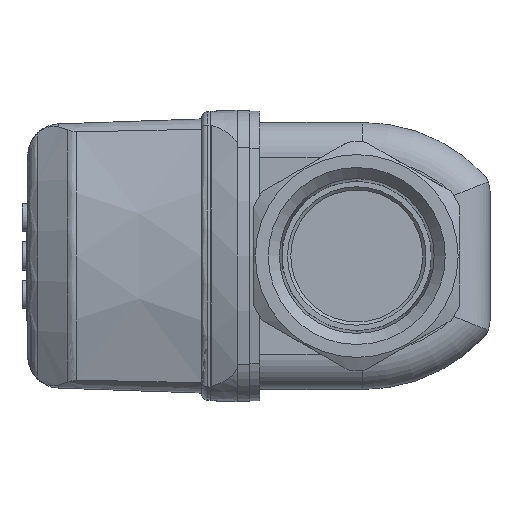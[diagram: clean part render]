
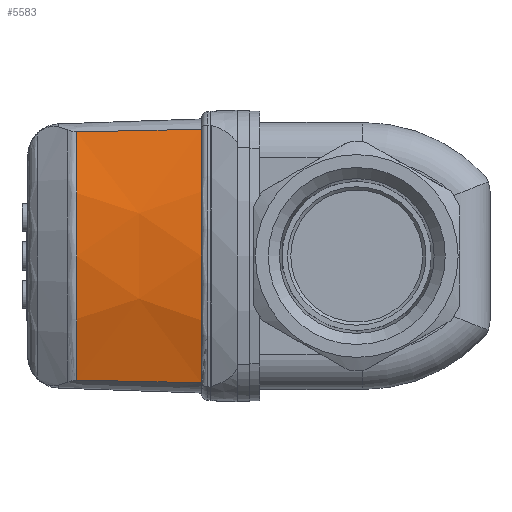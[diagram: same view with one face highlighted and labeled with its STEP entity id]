
A CAD part, left-side view. The second image highlights one B-rep face of the part: STEP entity #5583.
In plain terms, the highlighted conical face has half-angle 2 degrees and reference radius 57.721 mm.
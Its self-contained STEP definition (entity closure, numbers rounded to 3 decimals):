
#38=CONICAL_SURFACE('',#5928,57.721,0.035);
#711=B_SPLINE_CURVE_WITH_KNOTS('',3,(#8183,#8184,#8185,#8186),
 .UNSPECIFIED.,.F.,.F.,(4,4),(0.002,0.021),
 .UNSPECIFIED.);
#712=B_SPLINE_CURVE_WITH_KNOTS('',3,(#8187,#8188,#8189,#8190),
 .UNSPECIFIED.,.F.,.F.,(4,4),(0.002,0.021),
 .UNSPECIFIED.);
#989=ORIENTED_EDGE('',*,*,#2052,.F.);
#990=ORIENTED_EDGE('',*,*,#2053,.T.);
#991=ORIENTED_EDGE('',*,*,#1865,.T.);
#992=ORIENTED_EDGE('',*,*,#2054,.T.);
#1865=EDGE_CURVE('',#2415,#2414,#2787,.T.);
#2052=EDGE_CURVE('',#2567,#2568,#2864,.T.);
#2053=EDGE_CURVE('',#2567,#2415,#711,.T.);
#2054=EDGE_CURVE('',#2414,#2568,#712,.T.);
#2414=VERTEX_POINT('',#7605);
#2415=VERTEX_POINT('',#7607);
#2567=VERTEX_POINT('',#8181);
#2568=VERTEX_POINT('',#8182);
#2787=CIRCLE('',#5818,57.721);
#2864=CIRCLE('',#5929,57.045);
#3084=EDGE_LOOP('',(#989,#990,#991,#992));
#3426=FACE_BOUND('',#3084,.T.);
#5583=ADVANCED_FACE('',(#3426),#38,.T.);
#5818=AXIS2_PLACEMENT_3D('',#7606,#6350,#6351);
#5928=AXIS2_PLACEMENT_3D('',#8179,#6636,#6637);
#5929=AXIS2_PLACEMENT_3D('',#8180,#6638,#6639);
#6350=DIRECTION('',(0.,1.,0.));
#6351=DIRECTION('',(0.,0.,1.));
#6636=DIRECTION('',(0.,-1.,0.));
#6637=DIRECTION('',(0.,0.,-1.));
#6638=DIRECTION('',(0.,1.,0.));
#6639=DIRECTION('',(0.,0.,1.));
#7605=CARTESIAN_POINT('',(-37.691,7.56,19.686));
#7606=CARTESIAN_POINT('',(16.57,7.56,0.));
#7607=CARTESIAN_POINT('',(-37.691,7.56,-19.686));
#8179=CARTESIAN_POINT('',(16.57,7.56,0.));
#8180=CARTESIAN_POINT('',(16.57,26.919,0.));
#8181=CARTESIAN_POINT('',(-37.118,26.919,-19.282));
#8182=CARTESIAN_POINT('',(-37.118,26.919,19.282));
#8183=CARTESIAN_POINT('',(-37.118,26.919,-19.282));
#8184=CARTESIAN_POINT('',(-37.308,20.466,-19.418));
#8185=CARTESIAN_POINT('',(-37.499,14.013,-19.553));
#8186=CARTESIAN_POINT('',(-37.691,7.56,-19.686));
#8187=CARTESIAN_POINT('',(-37.691,7.56,19.686));
#8188=CARTESIAN_POINT('',(-37.499,14.013,19.553));
#8189=CARTESIAN_POINT('',(-37.308,20.466,19.418));
#8190=CARTESIAN_POINT('',(-37.118,26.919,19.282));
